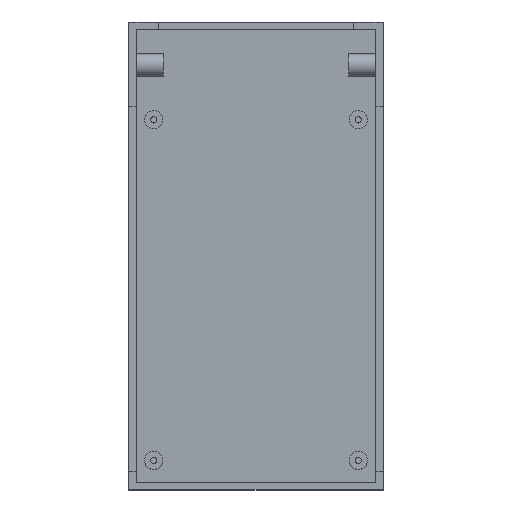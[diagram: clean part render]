
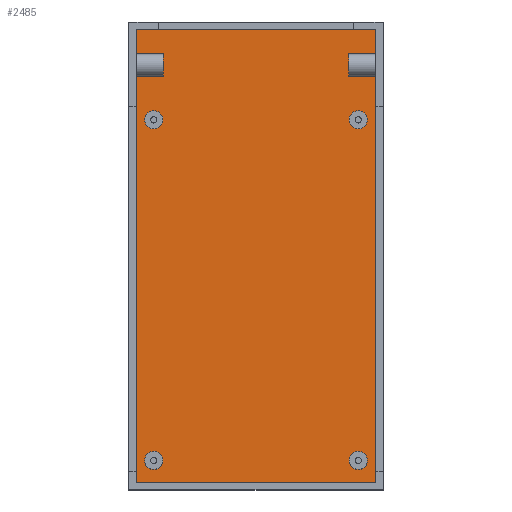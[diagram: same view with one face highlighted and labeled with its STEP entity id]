
A CAD part, top view. The second image highlights one B-rep face of the part: STEP entity #2485.
In plain terms, the highlighted planar face has unit normal (0, 0, 1).
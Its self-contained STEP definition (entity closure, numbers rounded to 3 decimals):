
#588 = PLANE('',#589);
#589 = AXIS2_PLACEMENT_3D('',#590,#591,#592);
#590 = CARTESIAN_POINT('',(108.8,0.,0.));
#591 = DIRECTION('',(1.,0.,0.));
#592 = DIRECTION('',(0.,0.,1.));
#616 = PLANE('',#617);
#617 = AXIS2_PLACEMENT_3D('',#618,#619,#620);
#618 = CARTESIAN_POINT('',(0.,3.2,0.));
#619 = DIRECTION('',(0.,1.,0.));
#620 = DIRECTION('',(0.,0.,1.));
#644 = PLANE('',#645);
#645 = AXIS2_PLACEMENT_3D('',#646,#647,#648);
#646 = CARTESIAN_POINT('',(3.2,0.,0.));
#647 = DIRECTION('',(1.,0.,0.));
#648 = DIRECTION('',(0.,0.,1.));
#1075 = PLANE('',#1076);
#1076 = AXIS2_PLACEMENT_3D('',#1077,#1078,#1079);
#1077 = CARTESIAN_POINT('',(0.,202.8,0.));
#1078 = DIRECTION('',(0.,1.,0.));
#1079 = DIRECTION('',(0.,0.,1.));
#1640 = VERTEX_POINT('',#1641);
#1641 = CARTESIAN_POINT('',(108.8,3.2,3.2));
#1662 = EDGE_CURVE('',#1640,#1663,#1665,.T.);
#1663 = VERTEX_POINT('',#1664);
#1664 = CARTESIAN_POINT('',(108.8,202.8,3.2));
#1665 = SURFACE_CURVE('',#1666,(#1670,#1677),.PCURVE_S1.);
#1666 = LINE('',#1667,#1668);
#1667 = CARTESIAN_POINT('',(108.8,3.2,3.2));
#1668 = VECTOR('',#1669,1.);
#1669 = DIRECTION('',(0.,1.,0.));
#1670 = PCURVE('',#588,#1671);
#1671 = DEFINITIONAL_REPRESENTATION('',(#1672),#1676);
#1672 = LINE('',#1673,#1674);
#1673 = CARTESIAN_POINT('',(3.2,-3.2));
#1674 = VECTOR('',#1675,1.);
#1675 = DIRECTION('',(0.,-1.));
#1676 = ( GEOMETRIC_REPRESENTATION_CONTEXT(2) 
PARAMETRIC_REPRESENTATION_CONTEXT() REPRESENTATION_CONTEXT('2D SPACE',''
  ) );
#1677 = PCURVE('',#1678,#1683);
#1678 = PLANE('',#1679);
#1679 = AXIS2_PLACEMENT_3D('',#1680,#1681,#1682);
#1680 = CARTESIAN_POINT('',(0.,0.,3.2));
#1681 = DIRECTION('',(0.,0.,1.));
#1682 = DIRECTION('',(1.,0.,0.));
#1683 = DEFINITIONAL_REPRESENTATION('',(#1684),#1688);
#1684 = LINE('',#1685,#1686);
#1685 = CARTESIAN_POINT('',(108.8,3.2));
#1686 = VECTOR('',#1687,1.);
#1687 = DIRECTION('',(0.,1.));
#1688 = ( GEOMETRIC_REPRESENTATION_CONTEXT(2) 
PARAMETRIC_REPRESENTATION_CONTEXT() REPRESENTATION_CONTEXT('2D SPACE',''
  ) );
#1793 = EDGE_CURVE('',#1640,#1794,#1796,.T.);
#1794 = VERTEX_POINT('',#1795);
#1795 = CARTESIAN_POINT('',(3.2,3.2,3.2));
#1796 = SURFACE_CURVE('',#1797,(#1801,#1807),.PCURVE_S1.);
#1797 = LINE('',#1798,#1799);
#1798 = CARTESIAN_POINT('',(0.,3.2,3.2));
#1799 = VECTOR('',#1800,1.);
#1800 = DIRECTION('',(-1.,0.,0.));
#1801 = PCURVE('',#616,#1802);
#1802 = DEFINITIONAL_REPRESENTATION('',(#1803),#1806);
#1803 = B_SPLINE_CURVE_WITH_KNOTS('',1,(#1804,#1805),.UNSPECIFIED.,.F.,
  .F.,(2,2),(-108.8,-3.2),.PIECEWISE_BEZIER_KNOTS.);
#1804 = CARTESIAN_POINT('',(3.2,108.8));
#1805 = CARTESIAN_POINT('',(3.2,3.2));
#1806 = ( GEOMETRIC_REPRESENTATION_CONTEXT(2) 
PARAMETRIC_REPRESENTATION_CONTEXT() REPRESENTATION_CONTEXT('2D SPACE',''
  ) );
#1807 = PCURVE('',#1678,#1808);
#1808 = DEFINITIONAL_REPRESENTATION('',(#1809),#1812);
#1809 = B_SPLINE_CURVE_WITH_KNOTS('',1,(#1810,#1811),.UNSPECIFIED.,.F.,
  .F.,(2,2),(-108.8,-3.2),.PIECEWISE_BEZIER_KNOTS.);
#1810 = CARTESIAN_POINT('',(108.8,3.2));
#1811 = CARTESIAN_POINT('',(3.2,3.2));
#1812 = ( GEOMETRIC_REPRESENTATION_CONTEXT(2) 
PARAMETRIC_REPRESENTATION_CONTEXT() REPRESENTATION_CONTEXT('2D SPACE',''
  ) );
#1846 = EDGE_CURVE('',#1794,#1847,#1849,.T.);
#1847 = VERTEX_POINT('',#1848);
#1848 = CARTESIAN_POINT('',(3.2,202.8,3.2));
#1849 = SURFACE_CURVE('',#1850,(#1854,#1861),.PCURVE_S1.);
#1850 = LINE('',#1851,#1852);
#1851 = CARTESIAN_POINT('',(3.2,3.2,3.2));
#1852 = VECTOR('',#1853,1.);
#1853 = DIRECTION('',(0.,1.,0.));
#1854 = PCURVE('',#644,#1855);
#1855 = DEFINITIONAL_REPRESENTATION('',(#1856),#1860);
#1856 = LINE('',#1857,#1858);
#1857 = CARTESIAN_POINT('',(3.2,-3.2));
#1858 = VECTOR('',#1859,1.);
#1859 = DIRECTION('',(0.,-1.));
#1860 = ( GEOMETRIC_REPRESENTATION_CONTEXT(2) 
PARAMETRIC_REPRESENTATION_CONTEXT() REPRESENTATION_CONTEXT('2D SPACE',''
  ) );
#1861 = PCURVE('',#1678,#1862);
#1862 = DEFINITIONAL_REPRESENTATION('',(#1863),#1867);
#1863 = LINE('',#1864,#1865);
#1864 = CARTESIAN_POINT('',(3.2,3.2));
#1865 = VECTOR('',#1866,1.);
#1866 = DIRECTION('',(0.,1.));
#1867 = ( GEOMETRIC_REPRESENTATION_CONTEXT(2) 
PARAMETRIC_REPRESENTATION_CONTEXT() REPRESENTATION_CONTEXT('2D SPACE',''
  ) );
#2320 = EDGE_CURVE('',#1847,#1663,#2321,.T.);
#2321 = SURFACE_CURVE('',#2322,(#2326,#2333),.PCURVE_S1.);
#2322 = LINE('',#2323,#2324);
#2323 = CARTESIAN_POINT('',(3.2,202.8,3.2));
#2324 = VECTOR('',#2325,1.);
#2325 = DIRECTION('',(1.,0.,0.));
#2326 = PCURVE('',#1075,#2327);
#2327 = DEFINITIONAL_REPRESENTATION('',(#2328),#2332);
#2328 = LINE('',#2329,#2330);
#2329 = CARTESIAN_POINT('',(3.2,3.2));
#2330 = VECTOR('',#2331,1.);
#2331 = DIRECTION('',(0.,1.));
#2332 = ( GEOMETRIC_REPRESENTATION_CONTEXT(2) 
PARAMETRIC_REPRESENTATION_CONTEXT() REPRESENTATION_CONTEXT('2D SPACE',''
  ) );
#2333 = PCURVE('',#1678,#2334);
#2334 = DEFINITIONAL_REPRESENTATION('',(#2335),#2339);
#2335 = LINE('',#2336,#2337);
#2336 = CARTESIAN_POINT('',(3.2,202.8));
#2337 = VECTOR('',#2338,1.);
#2338 = DIRECTION('',(1.,0.));
#2339 = ( GEOMETRIC_REPRESENTATION_CONTEXT(2) 
PARAMETRIC_REPRESENTATION_CONTEXT() REPRESENTATION_CONTEXT('2D SPACE',''
  ) );
#2485 = ADVANCED_FACE('',(#2486,#2492,#2523,#2554,#2585),#1678,.T.);
#2486 = FACE_BOUND('',#2487,.T.);
#2487 = EDGE_LOOP('',(#2488,#2489,#2490,#2491));
#2488 = ORIENTED_EDGE('',*,*,#2320,.F.);
#2489 = ORIENTED_EDGE('',*,*,#1846,.F.);
#2490 = ORIENTED_EDGE('',*,*,#1793,.F.);
#2491 = ORIENTED_EDGE('',*,*,#1662,.T.);
#2492 = FACE_BOUND('',#2493,.T.);
#2493 = EDGE_LOOP('',(#2494));
#2494 = ORIENTED_EDGE('',*,*,#2495,.F.);
#2495 = EDGE_CURVE('',#2496,#2496,#2498,.T.);
#2496 = VERTEX_POINT('',#2497);
#2497 = CARTESIAN_POINT('',(15.,13.,3.2));
#2498 = SURFACE_CURVE('',#2499,(#2504,#2511),.PCURVE_S1.);
#2499 = CIRCLE('',#2500,4.);
#2500 = AXIS2_PLACEMENT_3D('',#2501,#2502,#2503);
#2501 = CARTESIAN_POINT('',(11.,13.,3.2));
#2502 = DIRECTION('',(0.,0.,1.));
#2503 = DIRECTION('',(1.,0.,0.));
#2504 = PCURVE('',#1678,#2505);
#2505 = DEFINITIONAL_REPRESENTATION('',(#2506),#2510);
#2506 = CIRCLE('',#2507,4.);
#2507 = AXIS2_PLACEMENT_2D('',#2508,#2509);
#2508 = CARTESIAN_POINT('',(11.,13.));
#2509 = DIRECTION('',(1.,0.));
#2510 = ( GEOMETRIC_REPRESENTATION_CONTEXT(2) 
PARAMETRIC_REPRESENTATION_CONTEXT() REPRESENTATION_CONTEXT('2D SPACE',''
  ) );
#2511 = PCURVE('',#2512,#2517);
#2512 = CYLINDRICAL_SURFACE('',#2513,4.);
#2513 = AXIS2_PLACEMENT_3D('',#2514,#2515,#2516);
#2514 = CARTESIAN_POINT('',(11.,13.,3.2));
#2515 = DIRECTION('',(-0.,-0.,-1.));
#2516 = DIRECTION('',(1.,0.,0.));
#2517 = DEFINITIONAL_REPRESENTATION('',(#2518),#2522);
#2518 = LINE('',#2519,#2520);
#2519 = CARTESIAN_POINT('',(-0.,0.));
#2520 = VECTOR('',#2521,1.);
#2521 = DIRECTION('',(-1.,0.));
#2522 = ( GEOMETRIC_REPRESENTATION_CONTEXT(2) 
PARAMETRIC_REPRESENTATION_CONTEXT() REPRESENTATION_CONTEXT('2D SPACE',''
  ) );
#2523 = FACE_BOUND('',#2524,.T.);
#2524 = EDGE_LOOP('',(#2525));
#2525 = ORIENTED_EDGE('',*,*,#2526,.F.);
#2526 = EDGE_CURVE('',#2527,#2527,#2529,.T.);
#2527 = VERTEX_POINT('',#2528);
#2528 = CARTESIAN_POINT('',(105.,13.,3.2));
#2529 = SURFACE_CURVE('',#2530,(#2535,#2542),.PCURVE_S1.);
#2530 = CIRCLE('',#2531,4.);
#2531 = AXIS2_PLACEMENT_3D('',#2532,#2533,#2534);
#2532 = CARTESIAN_POINT('',(101.,13.,3.2));
#2533 = DIRECTION('',(0.,0.,1.));
#2534 = DIRECTION('',(1.,0.,0.));
#2535 = PCURVE('',#1678,#2536);
#2536 = DEFINITIONAL_REPRESENTATION('',(#2537),#2541);
#2537 = CIRCLE('',#2538,4.);
#2538 = AXIS2_PLACEMENT_2D('',#2539,#2540);
#2539 = CARTESIAN_POINT('',(101.,13.));
#2540 = DIRECTION('',(1.,0.));
#2541 = ( GEOMETRIC_REPRESENTATION_CONTEXT(2) 
PARAMETRIC_REPRESENTATION_CONTEXT() REPRESENTATION_CONTEXT('2D SPACE',''
  ) );
#2542 = PCURVE('',#2543,#2548);
#2543 = CYLINDRICAL_SURFACE('',#2544,4.);
#2544 = AXIS2_PLACEMENT_3D('',#2545,#2546,#2547);
#2545 = CARTESIAN_POINT('',(101.,13.,3.2));
#2546 = DIRECTION('',(-0.,-0.,-1.));
#2547 = DIRECTION('',(1.,0.,0.));
#2548 = DEFINITIONAL_REPRESENTATION('',(#2549),#2553);
#2549 = LINE('',#2550,#2551);
#2550 = CARTESIAN_POINT('',(-0.,0.));
#2551 = VECTOR('',#2552,1.);
#2552 = DIRECTION('',(-1.,0.));
#2553 = ( GEOMETRIC_REPRESENTATION_CONTEXT(2) 
PARAMETRIC_REPRESENTATION_CONTEXT() REPRESENTATION_CONTEXT('2D SPACE',''
  ) );
#2554 = FACE_BOUND('',#2555,.T.);
#2555 = EDGE_LOOP('',(#2556));
#2556 = ORIENTED_EDGE('',*,*,#2557,.F.);
#2557 = EDGE_CURVE('',#2558,#2558,#2560,.T.);
#2558 = VERTEX_POINT('',#2559);
#2559 = CARTESIAN_POINT('',(15.,163.,3.2));
#2560 = SURFACE_CURVE('',#2561,(#2566,#2573),.PCURVE_S1.);
#2561 = CIRCLE('',#2562,4.);
#2562 = AXIS2_PLACEMENT_3D('',#2563,#2564,#2565);
#2563 = CARTESIAN_POINT('',(11.,163.,3.2));
#2564 = DIRECTION('',(0.,0.,1.));
#2565 = DIRECTION('',(1.,0.,0.));
#2566 = PCURVE('',#1678,#2567);
#2567 = DEFINITIONAL_REPRESENTATION('',(#2568),#2572);
#2568 = CIRCLE('',#2569,4.);
#2569 = AXIS2_PLACEMENT_2D('',#2570,#2571);
#2570 = CARTESIAN_POINT('',(11.,163.));
#2571 = DIRECTION('',(1.,0.));
#2572 = ( GEOMETRIC_REPRESENTATION_CONTEXT(2) 
PARAMETRIC_REPRESENTATION_CONTEXT() REPRESENTATION_CONTEXT('2D SPACE',''
  ) );
#2573 = PCURVE('',#2574,#2579);
#2574 = CYLINDRICAL_SURFACE('',#2575,4.);
#2575 = AXIS2_PLACEMENT_3D('',#2576,#2577,#2578);
#2576 = CARTESIAN_POINT('',(11.,163.,3.2));
#2577 = DIRECTION('',(-0.,-0.,-1.));
#2578 = DIRECTION('',(1.,0.,0.));
#2579 = DEFINITIONAL_REPRESENTATION('',(#2580),#2584);
#2580 = LINE('',#2581,#2582);
#2581 = CARTESIAN_POINT('',(-0.,0.));
#2582 = VECTOR('',#2583,1.);
#2583 = DIRECTION('',(-1.,0.));
#2584 = ( GEOMETRIC_REPRESENTATION_CONTEXT(2) 
PARAMETRIC_REPRESENTATION_CONTEXT() REPRESENTATION_CONTEXT('2D SPACE',''
  ) );
#2585 = FACE_BOUND('',#2586,.T.);
#2586 = EDGE_LOOP('',(#2587));
#2587 = ORIENTED_EDGE('',*,*,#2588,.F.);
#2588 = EDGE_CURVE('',#2589,#2589,#2591,.T.);
#2589 = VERTEX_POINT('',#2590);
#2590 = CARTESIAN_POINT('',(105.,163.,3.2));
#2591 = SURFACE_CURVE('',#2592,(#2597,#2604),.PCURVE_S1.);
#2592 = CIRCLE('',#2593,4.);
#2593 = AXIS2_PLACEMENT_3D('',#2594,#2595,#2596);
#2594 = CARTESIAN_POINT('',(101.,163.,3.2));
#2595 = DIRECTION('',(0.,0.,1.));
#2596 = DIRECTION('',(1.,0.,0.));
#2597 = PCURVE('',#1678,#2598);
#2598 = DEFINITIONAL_REPRESENTATION('',(#2599),#2603);
#2599 = CIRCLE('',#2600,4.);
#2600 = AXIS2_PLACEMENT_2D('',#2601,#2602);
#2601 = CARTESIAN_POINT('',(101.,163.));
#2602 = DIRECTION('',(1.,0.));
#2603 = ( GEOMETRIC_REPRESENTATION_CONTEXT(2) 
PARAMETRIC_REPRESENTATION_CONTEXT() REPRESENTATION_CONTEXT('2D SPACE',''
  ) );
#2604 = PCURVE('',#2605,#2610);
#2605 = CYLINDRICAL_SURFACE('',#2606,4.);
#2606 = AXIS2_PLACEMENT_3D('',#2607,#2608,#2609);
#2607 = CARTESIAN_POINT('',(101.,163.,3.2));
#2608 = DIRECTION('',(-0.,-0.,-1.));
#2609 = DIRECTION('',(1.,0.,0.));
#2610 = DEFINITIONAL_REPRESENTATION('',(#2611),#2615);
#2611 = LINE('',#2612,#2613);
#2612 = CARTESIAN_POINT('',(-0.,0.));
#2613 = VECTOR('',#2614,1.);
#2614 = DIRECTION('',(-1.,0.));
#2615 = ( GEOMETRIC_REPRESENTATION_CONTEXT(2) 
PARAMETRIC_REPRESENTATION_CONTEXT() REPRESENTATION_CONTEXT('2D SPACE',''
  ) );
